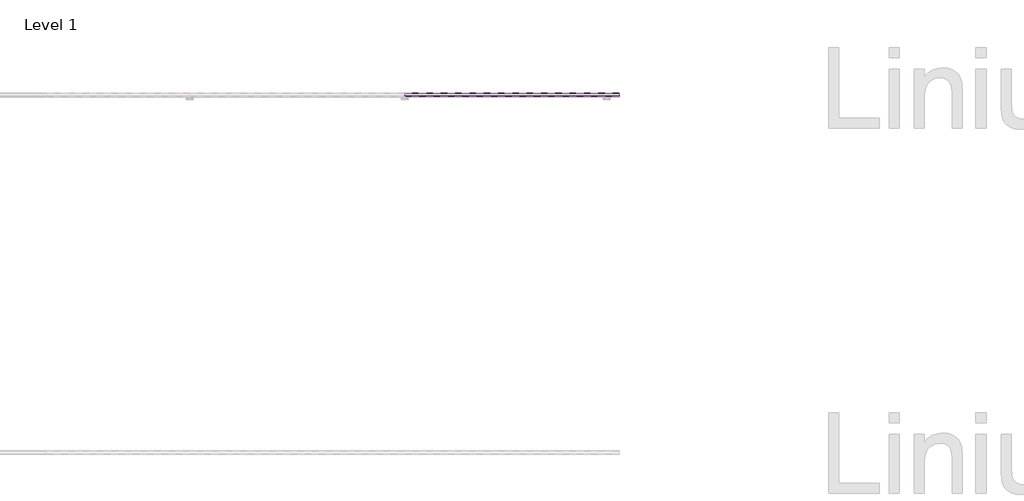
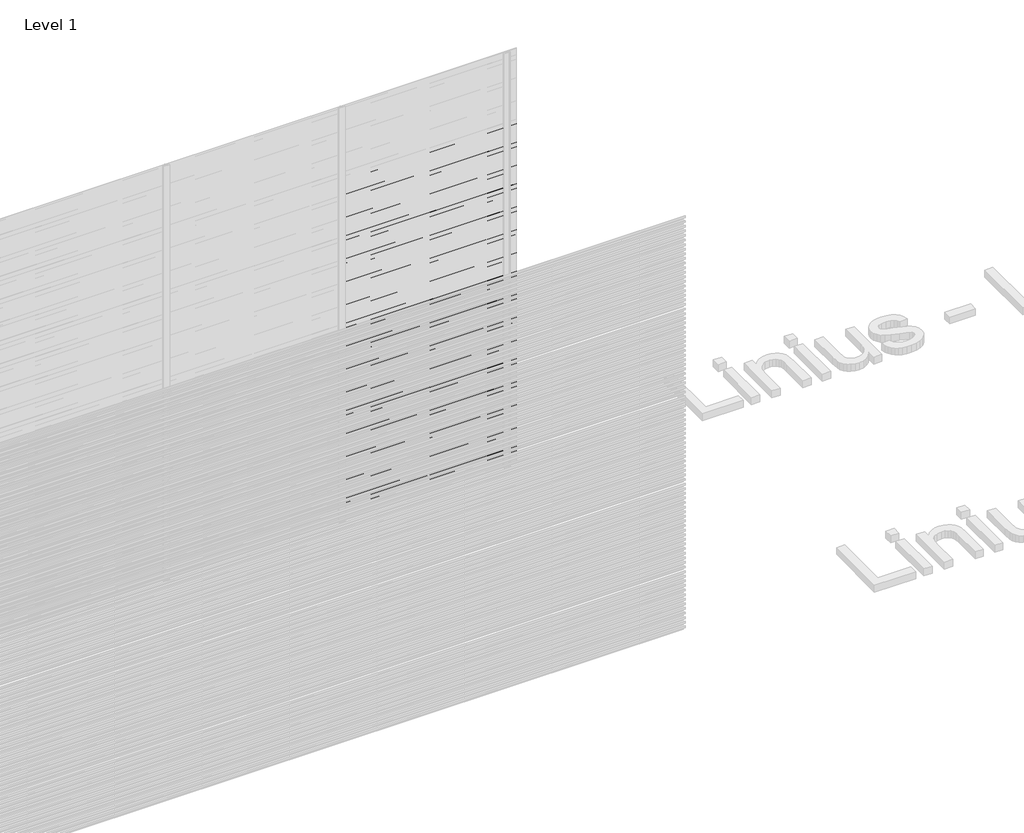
# One storey, part 64 of 507: 74 proxies.
"""IFC4 building model written with IfcOpenShell, lengths in millimetres."""

from ifc_helpers import new_model, si_unit, frame, origin, place, context, project, spatial, polyline, outline, extrude, element, save

model = new_model("IFC4")

# Units and contexts
model_context = context("Model", 3, world=origin())
ifc_project = project(units=[si_unit("LENGTHUNIT", "METRE", prefix="MILLI")], contexts=[model_context])

# Site, building, storey
site = spatial("IfcSite", under=ifc_project)
building = spatial("IfcBuilding", under=site)
storey = spatial("IfcBuildingStorey", under=building, Name="Level 1", Elevation=0.0)

# Proxies
placement = place(None, origin())
element("IfcBuildingElementProxy", 1, Name="Wall Sweeps", at=placement, inside=storey, context=model_context, shape_type="SweptSolid", body=[
    extrude(outline(polyline([(44003.4540136, 2440.2), (44003.4540136, 2426.7), (44002.2040136, 2427.4216933), (44002.2040136, 2439.4782281), (43983.0540136, 2450.5345698), (43983.0540136, 2464.2), (43984.3040136, 2464.2), (43984.3040136, 2451.2562577), (44003.4540136, 2440.2)])), frame((49766.6208095, 0.0, 0.0), z_axis=(1.0, 0.0, 0.0), x_axis=(0.0, 1.0, 0.0)), (0.0, 0.0, 1.0), 1200.0000002),
])
element("IfcBuildingElementProxy", 2, Name="Wall Sweeps", at=placement, inside=storey, context=model_context, shape_type="SweptSolid", body=[
    extrude(outline(polyline([(44003.4540136, 2406.9), (44003.4540136, 2393.4), (44002.2040136, 2394.1216933), (44002.2040136, 2406.1782281), (43983.0540136, 2417.2345698), (43983.0540136, 2430.9), (43984.3040136, 2430.9), (43984.3040136, 2417.9562577), (44003.4540136, 2406.9)])), frame((49766.6208095, 0.0, 0.0), z_axis=(1.0, 0.0, 0.0), x_axis=(0.0, 1.0, 0.0)), (0.0, 0.0, 1.0), 1200.0000002),
])
element("IfcBuildingElementProxy", 3, Name="Wall Sweeps", at=placement, inside=storey, context=model_context, shape_type="SweptSolid", body=[
    extrude(outline(polyline([(44003.4540136, 2373.6), (44003.4540136, 2360.1), (44002.2040136, 2360.8216933), (44002.2040136, 2372.8782281), (43983.0540136, 2383.9345698), (43983.0540136, 2397.6), (43984.3040136, 2397.6), (43984.3040136, 2384.6562577), (44003.4540136, 2373.6)])), frame((49766.6208095, 0.0, 0.0), z_axis=(1.0, 0.0, 0.0), x_axis=(0.0, 1.0, 0.0)), (0.0, 0.0, 1.0), 1200.0000002),
])
element("IfcBuildingElementProxy", 4, Name="Wall Sweeps", at=placement, inside=storey, context=model_context, shape_type="SweptSolid", body=[
    extrude(outline(polyline([(44003.4540136, 2340.3), (44003.4540136, 2326.8), (44002.2040136, 2327.5216933), (44002.2040136, 2339.5782281), (43983.0540136, 2350.6345698), (43983.0540136, 2364.3), (43984.3040136, 2364.3), (43984.3040136, 2351.3562577), (44003.4540136, 2340.3)])), frame((49766.6208095, 0.0, 0.0), z_axis=(1.0, 0.0, 0.0), x_axis=(0.0, 1.0, 0.0)), (0.0, 0.0, 1.0), 1200.0000002),
])
element("IfcBuildingElementProxy", 5, Name="Wall Sweeps", at=placement, inside=storey, context=model_context, shape_type="SweptSolid", body=[
    extrude(outline(polyline([(44003.4540136, 2307.0), (44003.4540136, 2293.5), (44002.2040136, 2294.2216933), (44002.2040136, 2306.2782281), (43983.0540136, 2317.3345698), (43983.0540136, 2331.0), (43984.3040136, 2331.0), (43984.3040136, 2318.0562577), (44003.4540136, 2307.0)])), frame((49766.6208095, 0.0, 0.0), z_axis=(1.0, 0.0, 0.0), x_axis=(0.0, 1.0, 0.0)), (0.0, 0.0, 1.0), 1200.0000002),
])
element("IfcBuildingElementProxy", 6, Name="Wall Sweeps", at=placement, inside=storey, context=model_context, shape_type="SweptSolid", body=[
    extrude(outline(polyline([(44003.4540136, 2273.7), (44003.4540136, 2260.2), (44002.2040136, 2260.9216933), (44002.2040136, 2272.9782281), (43983.0540136, 2284.0345698), (43983.0540136, 2297.7), (43984.3040136, 2297.7), (43984.3040136, 2284.7562577), (44003.4540136, 2273.7)])), frame((49766.6208095, 0.0, 0.0), z_axis=(1.0, 0.0, 0.0), x_axis=(0.0, 1.0, 0.0)), (0.0, 0.0, 1.0), 1200.0000002),
])
element("IfcBuildingElementProxy", 7, Name="Wall Sweeps", at=placement, inside=storey, context=model_context, shape_type="SweptSolid", body=[
    extrude(outline(polyline([(44003.4540136, 2240.4), (44003.4540136, 2226.9), (44002.2040136, 2227.6216933), (44002.2040136, 2239.6782281), (43983.0540136, 2250.7345698), (43983.0540136, 2264.4), (43984.3040136, 2264.4), (43984.3040136, 2251.4562577), (44003.4540136, 2240.4)])), frame((49766.6208095, 0.0, 0.0), z_axis=(1.0, 0.0, 0.0), x_axis=(0.0, 1.0, 0.0)), (0.0, 0.0, 1.0), 1200.0000002),
])
element("IfcBuildingElementProxy", 8, Name="Wall Sweeps", at=placement, inside=storey, context=model_context, shape_type="SweptSolid", body=[
    extrude(outline(polyline([(44003.4540136, 2207.1), (44003.4540136, 2193.6), (44002.2040136, 2194.3216933), (44002.2040136, 2206.3782281), (43983.0540136, 2217.4345698), (43983.0540136, 2231.1), (43984.3040136, 2231.1), (43984.3040136, 2218.1562577), (44003.4540136, 2207.1)])), frame((49766.6208095, 0.0, 0.0), z_axis=(1.0, 0.0, 0.0), x_axis=(0.0, 1.0, 0.0)), (0.0, 0.0, 1.0), 1200.0000002),
])
element("IfcBuildingElementProxy", 9, Name="Wall Sweeps", at=placement, inside=storey, context=model_context, shape_type="SweptSolid", body=[
    extrude(outline(polyline([(44003.4540136, 2173.8), (44003.4540136, 2160.3), (44002.2040136, 2161.0216933), (44002.2040136, 2173.0782281), (43983.0540136, 2184.1345698), (43983.0540136, 2197.8), (43984.3040136, 2197.8), (43984.3040136, 2184.8562577), (44003.4540136, 2173.8)])), frame((49766.6208095, 0.0, 0.0), z_axis=(1.0, 0.0, 0.0), x_axis=(0.0, 1.0, 0.0)), (0.0, 0.0, 1.0), 1200.0000002),
])
element("IfcBuildingElementProxy", 10, Name="Wall Sweeps", at=placement, inside=storey, context=model_context, shape_type="SweptSolid", body=[
    extrude(outline(polyline([(44003.4540136, 2140.5), (44003.4540136, 2127.0), (44002.2040136, 2127.7216933), (44002.2040136, 2139.7782281), (43983.0540136, 2150.8345698), (43983.0540136, 2164.5), (43984.3040136, 2164.5), (43984.3040136, 2151.5562577), (44003.4540136, 2140.5)])), frame((49766.6208095, 0.0, 0.0), z_axis=(1.0, 0.0, 0.0), x_axis=(0.0, 1.0, 0.0)), (0.0, 0.0, 1.0), 1200.0000002),
])
element("IfcBuildingElementProxy", 11, Name="Wall Sweeps", at=placement, inside=storey, context=model_context, shape_type="SweptSolid", body=[
    extrude(outline(polyline([(44003.4540136, 2107.2), (44003.4540136, 2093.7), (44002.2040136, 2094.4216933), (44002.2040136, 2106.4782281), (43983.0540136, 2117.5345698), (43983.0540136, 2131.2), (43984.3040136, 2131.2), (43984.3040136, 2118.2562577), (44003.4540136, 2107.2)])), frame((49766.6208095, 0.0, 0.0), z_axis=(1.0, 0.0, 0.0), x_axis=(0.0, 1.0, 0.0)), (0.0, 0.0, 1.0), 1200.0000002),
])
element("IfcBuildingElementProxy", 12, Name="Wall Sweeps", at=placement, inside=storey, context=model_context, shape_type="SweptSolid", body=[
    extrude(outline(polyline([(44003.4540136, 2073.9), (44003.4540136, 2060.4), (44002.2040136, 2061.1216933), (44002.2040136, 2073.1782281), (43983.0540136, 2084.2345698), (43983.0540136, 2097.9), (43984.3040136, 2097.9), (43984.3040136, 2084.9562577), (44003.4540136, 2073.9)])), frame((49766.6208095, 0.0, 0.0), z_axis=(1.0, 0.0, 0.0), x_axis=(0.0, 1.0, 0.0)), (0.0, 0.0, 1.0), 1200.0000002),
])
element("IfcBuildingElementProxy", 13, Name="Wall Sweeps", at=placement, inside=storey, context=model_context, shape_type="SweptSolid", body=[
    extrude(outline(polyline([(44003.4540136, 2040.6), (44003.4540136, 2027.1), (44002.2040136, 2027.8216933), (44002.2040136, 2039.8782281), (43983.0540136, 2050.9345698), (43983.0540136, 2064.6), (43984.3040136, 2064.6), (43984.3040136, 2051.6562577), (44003.4540136, 2040.6)])), frame((49766.6208095, 0.0, 0.0), z_axis=(1.0, 0.0, 0.0), x_axis=(0.0, 1.0, 0.0)), (0.0, 0.0, 1.0), 1200.0000002),
])
element("IfcBuildingElementProxy", 14, Name="Wall Sweeps", at=placement, inside=storey, context=model_context, shape_type="SweptSolid", body=[
    extrude(outline(polyline([(44003.4540136, 2007.3), (44003.4540136, 1993.8), (44002.2040136, 1994.5216933), (44002.2040136, 2006.5782281), (43983.0540136, 2017.6345698), (43983.0540136, 2031.3), (43984.3040136, 2031.3), (43984.3040136, 2018.3562577), (44003.4540136, 2007.3)])), frame((49766.6208095, 0.0, 0.0), z_axis=(1.0, 0.0, 0.0), x_axis=(0.0, 1.0, 0.0)), (0.0, 0.0, 1.0), 1200.0000002),
])
element("IfcBuildingElementProxy", 15, Name="Wall Sweeps", at=placement, inside=storey, context=model_context, shape_type="SweptSolid", body=[
    extrude(outline(polyline([(44003.4540136, 1974.0), (44003.4540136, 1960.5), (44002.2040136, 1961.2216933), (44002.2040136, 1973.2782281), (43983.0540136, 1984.3345698), (43983.0540136, 1998.0), (43984.3040136, 1998.0), (43984.3040136, 1985.0562577), (44003.4540136, 1974.0)])), frame((49766.6208095, 0.0, 0.0), z_axis=(1.0, 0.0, 0.0), x_axis=(0.0, 1.0, 0.0)), (0.0, 0.0, 1.0), 1200.0000002),
])
element("IfcBuildingElementProxy", 16, Name="Wall Sweeps", at=placement, inside=storey, context=model_context, shape_type="SweptSolid", body=[
    extrude(outline(polyline([(44003.4540136, 1940.7), (44003.4540136, 1927.2), (44002.2040136, 1927.9216933), (44002.2040136, 1939.9782281), (43983.0540136, 1951.0345698), (43983.0540136, 1964.7), (43984.3040136, 1964.7), (43984.3040136, 1951.7562577), (44003.4540136, 1940.7)])), frame((49766.6208095, 0.0, 0.0), z_axis=(1.0, 0.0, 0.0), x_axis=(0.0, 1.0, 0.0)), (0.0, 0.0, 1.0), 1200.0000002),
])
element("IfcBuildingElementProxy", 17, Name="Wall Sweeps", at=placement, inside=storey, context=model_context, shape_type="SweptSolid", body=[
    extrude(outline(polyline([(44003.4540136, 1907.4), (44003.4540136, 1893.9), (44002.2040136, 1894.6216933), (44002.2040136, 1906.6782281), (43983.0540136, 1917.7345698), (43983.0540136, 1931.4), (43984.3040136, 1931.4), (43984.3040136, 1918.4562577), (44003.4540136, 1907.4)])), frame((49766.6208095, 0.0, 0.0), z_axis=(1.0, 0.0, 0.0), x_axis=(0.0, 1.0, 0.0)), (0.0, 0.0, 1.0), 1200.0000002),
])
element("IfcBuildingElementProxy", 18, Name="Wall Sweeps", at=placement, inside=storey, context=model_context, shape_type="SweptSolid", body=[
    extrude(outline(polyline([(44003.4540136, 1874.1), (44003.4540136, 1860.6), (44002.2040136, 1861.3216933), (44002.2040136, 1873.3782281), (43983.0540136, 1884.4345698), (43983.0540136, 1898.1), (43984.3040136, 1898.1), (43984.3040136, 1885.1562577), (44003.4540136, 1874.1)])), frame((49766.6208095, 0.0, 0.0), z_axis=(1.0, 0.0, 0.0), x_axis=(0.0, 1.0, 0.0)), (0.0, 0.0, 1.0), 1200.0000002),
])
element("IfcBuildingElementProxy", 19, Name="Wall Sweeps", at=placement, inside=storey, context=model_context, shape_type="SweptSolid", body=[
    extrude(outline(polyline([(44003.4540136, 1840.8), (44003.4540136, 1827.3), (44002.2040136, 1828.0216933), (44002.2040136, 1840.0782281), (43983.0540136, 1851.1345698), (43983.0540136, 1864.8), (43984.3040136, 1864.8), (43984.3040136, 1851.8562577), (44003.4540136, 1840.8)])), frame((49766.6208095, 0.0, 0.0), z_axis=(1.0, 0.0, 0.0), x_axis=(0.0, 1.0, 0.0)), (0.0, 0.0, 1.0), 1200.0000002),
])
element("IfcBuildingElementProxy", 20, Name="Wall Sweeps", at=placement, inside=storey, context=model_context, shape_type="SweptSolid", body=[
    extrude(outline(polyline([(44003.4540136, 1807.5), (44003.4540136, 1794.0), (44002.2040136, 1794.7216933), (44002.2040136, 1806.7782281), (43983.0540136, 1817.8345698), (43983.0540136, 1831.5), (43984.3040136, 1831.5), (43984.3040136, 1818.5562577), (44003.4540136, 1807.5)])), frame((49766.6208095, 0.0, 0.0), z_axis=(1.0, 0.0, 0.0), x_axis=(0.0, 1.0, 0.0)), (0.0, 0.0, 1.0), 1200.0000002),
])
element("IfcBuildingElementProxy", 21, Name="Wall Sweeps", at=placement, inside=storey, context=model_context, shape_type="SweptSolid", body=[
    extrude(outline(polyline([(44003.4540136, 1774.2), (44003.4540136, 1760.7), (44002.2040136, 1761.4216933), (44002.2040136, 1773.4782281), (43983.0540136, 1784.5345698), (43983.0540136, 1798.2), (43984.3040136, 1798.2), (43984.3040136, 1785.2562577), (44003.4540136, 1774.2)])), frame((49766.6208095, 0.0, 0.0), z_axis=(1.0, 0.0, 0.0), x_axis=(0.0, 1.0, 0.0)), (0.0, 0.0, 1.0), 1200.0000002),
])
element("IfcBuildingElementProxy", 22, Name="Wall Sweeps", at=placement, inside=storey, context=model_context, shape_type="SweptSolid", body=[
    extrude(outline(polyline([(44003.4540136, 1740.9), (44003.4540136, 1727.4), (44002.2040136, 1728.1216933), (44002.2040136, 1740.1782281), (43983.0540136, 1751.2345698), (43983.0540136, 1764.9), (43984.3040136, 1764.9), (43984.3040136, 1751.9562577), (44003.4540136, 1740.9)])), frame((49766.6208095, 0.0, 0.0), z_axis=(1.0, 0.0, 0.0), x_axis=(0.0, 1.0, 0.0)), (0.0, 0.0, 1.0), 1200.0000002),
])
element("IfcBuildingElementProxy", 23, Name="Wall Sweeps", at=placement, inside=storey, context=model_context, shape_type="SweptSolid", body=[
    extrude(outline(polyline([(44003.4540136, 1707.6), (44003.4540136, 1694.1), (44002.2040136, 1694.8216933), (44002.2040136, 1706.8782281), (43983.0540136, 1717.9345698), (43983.0540136, 1731.6), (43984.3040136, 1731.6), (43984.3040136, 1718.6562577), (44003.4540136, 1707.6)])), frame((49766.6208095, 0.0, 0.0), z_axis=(1.0, 0.0, 0.0), x_axis=(0.0, 1.0, 0.0)), (0.0, 0.0, 1.0), 1200.0000002),
])
element("IfcBuildingElementProxy", 24, Name="Wall Sweeps", at=placement, inside=storey, context=model_context, shape_type="SweptSolid", body=[
    extrude(outline(polyline([(44003.4540136, 1674.3), (44003.4540136, 1660.8), (44002.2040136, 1661.5216933), (44002.2040136, 1673.5782281), (43983.0540136, 1684.6345698), (43983.0540136, 1698.3), (43984.3040136, 1698.3), (43984.3040136, 1685.3562577), (44003.4540136, 1674.3)])), frame((49766.6208095, 0.0, 0.0), z_axis=(1.0, 0.0, 0.0), x_axis=(0.0, 1.0, 0.0)), (0.0, 0.0, 1.0), 1200.0000002),
])
element("IfcBuildingElementProxy", 25, Name="Wall Sweeps", at=placement, inside=storey, context=model_context, shape_type="SweptSolid", body=[
    extrude(outline(polyline([(44003.4540136, 1641.0), (44003.4540136, 1627.5), (44002.2040136, 1628.2216933), (44002.2040136, 1640.2782281), (43983.0540136, 1651.3345698), (43983.0540136, 1665.0), (43984.3040136, 1665.0), (43984.3040136, 1652.0562577), (44003.4540136, 1641.0)])), frame((49766.6208095, 0.0, 0.0), z_axis=(1.0, 0.0, 0.0), x_axis=(0.0, 1.0, 0.0)), (0.0, 0.0, 1.0), 1200.0000002),
])
element("IfcBuildingElementProxy", 26, Name="Wall Sweeps", at=placement, inside=storey, context=model_context, shape_type="SweptSolid", body=[
    extrude(outline(polyline([(44003.4540136, 1607.7), (44003.4540136, 1594.2), (44002.2040136, 1594.9216933), (44002.2040136, 1606.9782281), (43983.0540136, 1618.0345698), (43983.0540136, 1631.7), (43984.3040136, 1631.7), (43984.3040136, 1618.7562577), (44003.4540136, 1607.7)])), frame((49766.6208095, 0.0, 0.0), z_axis=(1.0, 0.0, 0.0), x_axis=(0.0, 1.0, 0.0)), (0.0, 0.0, 1.0), 1200.0000002),
])
element("IfcBuildingElementProxy", 27, Name="Wall Sweeps", at=placement, inside=storey, context=model_context, shape_type="SweptSolid", body=[
    extrude(outline(polyline([(44003.4540136, 1574.4), (44003.4540136, 1560.9), (44002.2040136, 1561.6216933), (44002.2040136, 1573.6782281), (43983.0540136, 1584.7345698), (43983.0540136, 1598.4), (43984.3040136, 1598.4), (43984.3040136, 1585.4562577), (44003.4540136, 1574.4)])), frame((49766.6208095, 0.0, 0.0), z_axis=(1.0, 0.0, 0.0), x_axis=(0.0, 1.0, 0.0)), (0.0, 0.0, 1.0), 1200.0000002),
])
element("IfcBuildingElementProxy", 28, Name="Wall Sweeps", at=placement, inside=storey, context=model_context, shape_type="SweptSolid", body=[
    extrude(outline(polyline([(44003.4540136, 1541.1), (44003.4540136, 1527.6), (44002.2040136, 1528.3216933), (44002.2040136, 1540.3782281), (43983.0540136, 1551.4345698), (43983.0540136, 1565.1), (43984.3040136, 1565.1), (43984.3040136, 1552.1562577), (44003.4540136, 1541.1)])), frame((49766.6208095, 0.0, 0.0), z_axis=(1.0, 0.0, 0.0), x_axis=(0.0, 1.0, 0.0)), (0.0, 0.0, 1.0), 1200.0000002),
])
element("IfcBuildingElementProxy", 29, Name="Wall Sweeps", at=placement, inside=storey, context=model_context, shape_type="SweptSolid", body=[
    extrude(outline(polyline([(44003.4540136, 1507.8), (44003.4540136, 1494.3), (44002.2040136, 1495.0216933), (44002.2040136, 1507.0782281), (43983.0540136, 1518.1345698), (43983.0540136, 1531.8), (43984.3040136, 1531.8), (43984.3040136, 1518.8562577), (44003.4540136, 1507.8)])), frame((49766.6208095, 0.0, 0.0), z_axis=(1.0, 0.0, 0.0), x_axis=(0.0, 1.0, 0.0)), (0.0, 0.0, 1.0), 1200.0000002),
])
element("IfcBuildingElementProxy", 30, Name="Wall Sweeps", at=placement, inside=storey, context=model_context, shape_type="SweptSolid", body=[
    extrude(outline(polyline([(44003.4540136, 1474.5), (44003.4540136, 1461.0), (44002.2040136, 1461.7216933), (44002.2040136, 1473.7782281), (43983.0540136, 1484.8345698), (43983.0540136, 1498.5), (43984.3040136, 1498.5), (43984.3040136, 1485.5562577), (44003.4540136, 1474.5)])), frame((49766.6208095, 0.0, 0.0), z_axis=(1.0, 0.0, 0.0), x_axis=(0.0, 1.0, 0.0)), (0.0, 0.0, 1.0), 1200.0000002),
])
element("IfcBuildingElementProxy", 31, Name="Wall Sweeps", at=placement, inside=storey, context=model_context, shape_type="SweptSolid", body=[
    extrude(outline(polyline([(44003.4540136, 1441.2), (44003.4540136, 1427.7), (44002.2040136, 1428.4216933), (44002.2040136, 1440.4782281), (43983.0540136, 1451.5345698), (43983.0540136, 1465.2), (43984.3040136, 1465.2), (43984.3040136, 1452.2562577), (44003.4540136, 1441.2)])), frame((49766.6208095, 0.0, 0.0), z_axis=(1.0, 0.0, 0.0), x_axis=(0.0, 1.0, 0.0)), (0.0, 0.0, 1.0), 1200.0000002),
])
element("IfcBuildingElementProxy", 32, Name="Wall Sweeps", at=placement, inside=storey, context=model_context, shape_type="SweptSolid", body=[
    extrude(outline(polyline([(44003.4540136, 1407.9), (44003.4540136, 1394.4), (44002.2040136, 1395.1216933), (44002.2040136, 1407.1782281), (43983.0540136, 1418.2345698), (43983.0540136, 1431.9), (43984.3040136, 1431.9), (43984.3040136, 1418.9562577), (44003.4540136, 1407.9)])), frame((49766.6208095, 0.0, 0.0), z_axis=(1.0, 0.0, 0.0), x_axis=(0.0, 1.0, 0.0)), (0.0, 0.0, 1.0), 1200.0000002),
])
element("IfcBuildingElementProxy", 33, Name="Wall Sweeps", at=placement, inside=storey, context=model_context, shape_type="SweptSolid", body=[
    extrude(outline(polyline([(44003.4540136, 1374.6), (44003.4540136, 1361.1), (44002.2040136, 1361.8216933), (44002.2040136, 1373.8782281), (43983.0540136, 1384.9345698), (43983.0540136, 1398.6), (43984.3040136, 1398.6), (43984.3040136, 1385.6562577), (44003.4540136, 1374.6)])), frame((49766.6208095, 0.0, 0.0), z_axis=(1.0, 0.0, 0.0), x_axis=(0.0, 1.0, 0.0)), (0.0, 0.0, 1.0), 1200.0000002),
])
element("IfcBuildingElementProxy", 34, Name="Wall Sweeps", at=placement, inside=storey, context=model_context, shape_type="SweptSolid", body=[
    extrude(outline(polyline([(44003.4540136, 1341.3), (44003.4540136, 1327.8), (44002.2040136, 1328.5216933), (44002.2040136, 1340.5782281), (43983.0540136, 1351.6345698), (43983.0540136, 1365.3), (43984.3040136, 1365.3), (43984.3040136, 1352.3562577), (44003.4540136, 1341.3)])), frame((49766.6208095, 0.0, 0.0), z_axis=(1.0, 0.0, 0.0), x_axis=(0.0, 1.0, 0.0)), (0.0, 0.0, 1.0), 1200.0000002),
])
element("IfcBuildingElementProxy", 35, Name="Wall Sweeps", at=placement, inside=storey, context=model_context, shape_type="SweptSolid", body=[
    extrude(outline(polyline([(44003.4540136, 1308.0), (44003.4540136, 1294.5), (44002.2040136, 1295.2216933), (44002.2040136, 1307.2782281), (43983.0540136, 1318.3345698), (43983.0540136, 1332.0), (43984.3040136, 1332.0), (43984.3040136, 1319.0562577), (44003.4540136, 1308.0)])), frame((49766.6208095, 0.0, 0.0), z_axis=(1.0, 0.0, 0.0), x_axis=(0.0, 1.0, 0.0)), (0.0, 0.0, 1.0), 1200.0000002),
])
element("IfcBuildingElementProxy", 36, Name="Wall Sweeps", at=placement, inside=storey, context=model_context, shape_type="SweptSolid", body=[
    extrude(outline(polyline([(44003.4540136, 1274.7), (44003.4540136, 1261.2), (44002.2040136, 1261.9216933), (44002.2040136, 1273.9782281), (43983.0540136, 1285.0345698), (43983.0540136, 1298.7), (43984.3040136, 1298.7), (43984.3040136, 1285.7562577), (44003.4540136, 1274.7)])), frame((49766.6208095, 0.0, 0.0), z_axis=(1.0, 0.0, 0.0), x_axis=(0.0, 1.0, 0.0)), (0.0, 0.0, 1.0), 1200.0000002),
])
element("IfcBuildingElementProxy", 37, Name="Wall Sweeps", at=placement, inside=storey, context=model_context, shape_type="SweptSolid", body=[
    extrude(outline(polyline([(44003.4540136, 1241.4), (44003.4540136, 1227.9), (44002.2040136, 1228.6216933), (44002.2040136, 1240.6782281), (43983.0540136, 1251.7345698), (43983.0540136, 1265.4), (43984.3040136, 1265.4), (43984.3040136, 1252.4562577), (44003.4540136, 1241.4)])), frame((49766.6208095, 0.0, 0.0), z_axis=(1.0, 0.0, 0.0), x_axis=(0.0, 1.0, 0.0)), (0.0, 0.0, 1.0), 1200.0000002),
])
element("IfcBuildingElementProxy", 38, Name="Wall Sweeps", at=placement, inside=storey, context=model_context, shape_type="SweptSolid", body=[
    extrude(outline(polyline([(44003.4540136, 1208.1), (44003.4540136, 1194.6), (44002.2040136, 1195.3216933), (44002.2040136, 1207.3782281), (43983.0540136, 1218.4345698), (43983.0540136, 1232.1), (43984.3040136, 1232.1), (43984.3040136, 1219.1562577), (44003.4540136, 1208.1)])), frame((49766.6208095, 0.0, 0.0), z_axis=(1.0, 0.0, 0.0), x_axis=(0.0, 1.0, 0.0)), (0.0, 0.0, 1.0), 1200.0000002),
])
element("IfcBuildingElementProxy", 39, Name="Wall Sweeps", at=placement, inside=storey, context=model_context, shape_type="SweptSolid", body=[
    extrude(outline(polyline([(44003.4540136, 1174.8), (44003.4540136, 1161.3), (44002.2040136, 1162.0216933), (44002.2040136, 1174.0782281), (43983.0540136, 1185.1345698), (43983.0540136, 1198.8), (43984.3040136, 1198.8), (43984.3040136, 1185.8562577), (44003.4540136, 1174.8)])), frame((49766.6208095, 0.0, 0.0), z_axis=(1.0, 0.0, 0.0), x_axis=(0.0, 1.0, 0.0)), (0.0, 0.0, 1.0), 1200.0000002),
])
element("IfcBuildingElementProxy", 40, Name="Wall Sweeps", at=placement, inside=storey, context=model_context, shape_type="SweptSolid", body=[
    extrude(outline(polyline([(44003.4540136, 1141.5), (44003.4540136, 1128.0), (44002.2040136, 1128.7216933), (44002.2040136, 1140.7782281), (43983.0540136, 1151.8345698), (43983.0540136, 1165.5), (43984.3040136, 1165.5), (43984.3040136, 1152.5562577), (44003.4540136, 1141.5)])), frame((49766.6208095, 0.0, 0.0), z_axis=(1.0, 0.0, 0.0), x_axis=(0.0, 1.0, 0.0)), (0.0, 0.0, 1.0), 1200.0000002),
])
element("IfcBuildingElementProxy", 41, Name="Wall Sweeps", at=placement, inside=storey, context=model_context, shape_type="SweptSolid", body=[
    extrude(outline(polyline([(44003.4540136, 1108.2), (44003.4540136, 1094.7), (44002.2040136, 1095.4216933), (44002.2040136, 1107.4782281), (43983.0540136, 1118.5345698), (43983.0540136, 1132.2), (43984.3040136, 1132.2), (43984.3040136, 1119.2562577), (44003.4540136, 1108.2)])), frame((49766.6208095, 0.0, 0.0), z_axis=(1.0, 0.0, 0.0), x_axis=(0.0, 1.0, 0.0)), (0.0, 0.0, 1.0), 1200.0000002),
])
element("IfcBuildingElementProxy", 42, Name="Wall Sweeps", at=placement, inside=storey, context=model_context, shape_type="SweptSolid", body=[
    extrude(outline(polyline([(44003.4540136, 1074.9), (44003.4540136, 1061.4), (44002.2040136, 1062.1216933), (44002.2040136, 1074.1782281), (43983.0540136, 1085.2345698), (43983.0540136, 1098.9), (43984.3040136, 1098.9), (43984.3040136, 1085.9562577), (44003.4540136, 1074.9)])), frame((49766.6208095, 0.0, 0.0), z_axis=(1.0, 0.0, 0.0), x_axis=(0.0, 1.0, 0.0)), (0.0, 0.0, 1.0), 1200.0000002),
])
element("IfcBuildingElementProxy", 43, Name="Wall Sweeps", at=placement, inside=storey, context=model_context, shape_type="SweptSolid", body=[
    extrude(outline(polyline([(44003.4540136, 1041.6), (44003.4540136, 1028.1), (44002.2040136, 1028.8216933), (44002.2040136, 1040.8782281), (43983.0540136, 1051.9345698), (43983.0540136, 1065.6), (43984.3040136, 1065.6), (43984.3040136, 1052.6562577), (44003.4540136, 1041.6)])), frame((49766.6208095, 0.0, 0.0), z_axis=(1.0, 0.0, 0.0), x_axis=(0.0, 1.0, 0.0)), (0.0, 0.0, 1.0), 1200.0000002),
])
element("IfcBuildingElementProxy", 44, Name="Wall Sweeps", at=placement, inside=storey, context=model_context, shape_type="SweptSolid", body=[
    extrude(outline(polyline([(44003.4540136, 1008.3), (44003.4540136, 994.8), (44002.2040136, 995.5216933), (44002.2040136, 1007.5782281), (43983.0540136, 1018.6345698), (43983.0540136, 1032.3), (43984.3040136, 1032.3), (43984.3040136, 1019.3562577), (44003.4540136, 1008.3)])), frame((49766.6208095, 0.0, 0.0), z_axis=(1.0, 0.0, 0.0), x_axis=(0.0, 1.0, 0.0)), (0.0, 0.0, 1.0), 1200.0000002),
])
element("IfcBuildingElementProxy", 45, Name="Wall Sweeps", at=placement, inside=storey, context=model_context, shape_type="SweptSolid", body=[
    extrude(outline(polyline([(44003.4540136, 975.0), (44003.4540136, 961.5), (44002.2040136, 962.2216933), (44002.2040136, 974.2782281), (43983.0540136, 985.3345698), (43983.0540136, 999.0), (43984.3040136, 999.0), (43984.3040136, 986.0562577), (44003.4540136, 975.0)])), frame((49766.6208095, 0.0, 0.0), z_axis=(1.0, 0.0, 0.0), x_axis=(0.0, 1.0, 0.0)), (0.0, 0.0, 1.0), 1200.0000002),
])
element("IfcBuildingElementProxy", 46, Name="Wall Sweeps", at=placement, inside=storey, context=model_context, shape_type="SweptSolid", body=[
    extrude(outline(polyline([(44003.4540136, 941.7), (44003.4540136, 928.2), (44002.2040136, 928.9216933), (44002.2040136, 940.9782281), (43983.0540136, 952.0345698), (43983.0540136, 965.7), (43984.3040136, 965.7), (43984.3040136, 952.7562577), (44003.4540136, 941.7)])), frame((49766.6208095, 0.0, 0.0), z_axis=(1.0, 0.0, 0.0), x_axis=(0.0, 1.0, 0.0)), (0.0, 0.0, 1.0), 1200.0000002),
])
element("IfcBuildingElementProxy", 47, Name="Wall Sweeps", at=placement, inside=storey, context=model_context, shape_type="SweptSolid", body=[
    extrude(outline(polyline([(44003.4540136, 908.4), (44003.4540136, 894.9), (44002.2040136, 895.6216933), (44002.2040136, 907.6782281), (43983.0540136, 918.7345698), (43983.0540136, 932.4), (43984.3040136, 932.4), (43984.3040136, 919.4562577), (44003.4540136, 908.4)])), frame((49766.6208095, 0.0, 0.0), z_axis=(1.0, 0.0, 0.0), x_axis=(0.0, 1.0, 0.0)), (0.0, 0.0, 1.0), 1200.0000002),
])
element("IfcBuildingElementProxy", 48, Name="Wall Sweeps", at=placement, inside=storey, context=model_context, shape_type="SweptSolid", body=[
    extrude(outline(polyline([(44003.4540136, 875.1), (44003.4540136, 861.6), (44002.2040136, 862.3216933), (44002.2040136, 874.3782281), (43983.0540136, 885.4345698), (43983.0540136, 899.1), (43984.3040136, 899.1), (43984.3040136, 886.1562577), (44003.4540136, 875.1)])), frame((49766.6208095, 0.0, 0.0), z_axis=(1.0, 0.0, 0.0), x_axis=(0.0, 1.0, 0.0)), (0.0, 0.0, 1.0), 1200.0000002),
])
element("IfcBuildingElementProxy", 49, Name="Wall Sweeps", at=placement, inside=storey, context=model_context, shape_type="SweptSolid", body=[
    extrude(outline(polyline([(44003.4540136, 841.8), (44003.4540136, 828.3), (44002.2040136, 829.0216933), (44002.2040136, 841.0782281), (43983.0540136, 852.1345698), (43983.0540136, 865.8), (43984.3040136, 865.8), (43984.3040136, 852.8562577), (44003.4540136, 841.8)])), frame((49766.6208095, 0.0, 0.0), z_axis=(1.0, 0.0, 0.0), x_axis=(0.0, 1.0, 0.0)), (0.0, 0.0, 1.0), 1200.0000002),
])
element("IfcBuildingElementProxy", 50, Name="Wall Sweeps", at=placement, inside=storey, context=model_context, shape_type="SweptSolid", body=[
    extrude(outline(polyline([(44003.4540136, 808.5), (44003.4540136, 795.0), (44002.2040136, 795.7216933), (44002.2040136, 807.7782281), (43983.0540136, 818.8345698), (43983.0540136, 832.5), (43984.3040136, 832.5), (43984.3040136, 819.5562577), (44003.4540136, 808.5)])), frame((49766.6208095, 0.0, 0.0), z_axis=(1.0, 0.0, 0.0), x_axis=(0.0, 1.0, 0.0)), (0.0, 0.0, 1.0), 1200.0000002),
])
element("IfcBuildingElementProxy", 51, Name="Wall Sweeps", at=placement, inside=storey, context=model_context, shape_type="SweptSolid", body=[
    extrude(outline(polyline([(44003.4540136, 775.2), (44003.4540136, 761.7), (44002.2040136, 762.4216933), (44002.2040136, 774.4782281), (43983.0540136, 785.5345698), (43983.0540136, 799.2), (43984.3040136, 799.2), (43984.3040136, 786.2562577), (44003.4540136, 775.2)])), frame((49766.6208095, 0.0, 0.0), z_axis=(1.0, 0.0, 0.0), x_axis=(0.0, 1.0, 0.0)), (0.0, 0.0, 1.0), 1200.0000002),
])
element("IfcBuildingElementProxy", 52, Name="Wall Sweeps", at=placement, inside=storey, context=model_context, shape_type="SweptSolid", body=[
    extrude(outline(polyline([(44003.4540136, 741.9), (44003.4540136, 728.4), (44002.2040136, 729.1216933), (44002.2040136, 741.1782281), (43983.0540136, 752.2345698), (43983.0540136, 765.9), (43984.3040136, 765.9), (43984.3040136, 752.9562577), (44003.4540136, 741.9)])), frame((49766.6208095, 0.0, 0.0), z_axis=(1.0, 0.0, 0.0), x_axis=(0.0, 1.0, 0.0)), (0.0, 0.0, 1.0), 1200.0000002),
])
element("IfcBuildingElementProxy", 53, Name="Wall Sweeps", at=placement, inside=storey, context=model_context, shape_type="SweptSolid", body=[
    extrude(outline(polyline([(44003.4540136, 708.6), (44003.4540136, 695.1), (44002.2040136, 695.8216933), (44002.2040136, 707.8782281), (43983.0540136, 718.9345698), (43983.0540136, 732.6), (43984.3040136, 732.6), (43984.3040136, 719.6562577), (44003.4540136, 708.6)])), frame((49766.6208095, 0.0, 0.0), z_axis=(1.0, 0.0, 0.0), x_axis=(0.0, 1.0, 0.0)), (0.0, 0.0, 1.0), 1200.0000002),
])
element("IfcBuildingElementProxy", 54, Name="Wall Sweeps", at=placement, inside=storey, context=model_context, shape_type="SweptSolid", body=[
    extrude(outline(polyline([(44003.4540136, 675.3), (44003.4540136, 661.8), (44002.2040136, 662.5216933), (44002.2040136, 674.5782281), (43983.0540136, 685.6345698), (43983.0540136, 699.3), (43984.3040136, 699.3), (43984.3040136, 686.3562577), (44003.4540136, 675.3)])), frame((49766.6208095, 0.0, 0.0), z_axis=(1.0, 0.0, 0.0), x_axis=(0.0, 1.0, 0.0)), (0.0, 0.0, 1.0), 1200.0000002),
])
element("IfcBuildingElementProxy", 55, Name="Wall Sweeps", at=placement, inside=storey, context=model_context, shape_type="SweptSolid", body=[
    extrude(outline(polyline([(44003.4540136, 642.0), (44003.4540136, 628.5), (44002.2040136, 629.2216933), (44002.2040136, 641.2782281), (43983.0540136, 652.3345698), (43983.0540136, 666.0), (43984.3040136, 666.0), (43984.3040136, 653.0562577), (44003.4540136, 642.0)])), frame((49766.6208095, 0.0, 0.0), z_axis=(1.0, 0.0, 0.0), x_axis=(0.0, 1.0, 0.0)), (0.0, 0.0, 1.0), 1200.0000002),
])
element("IfcBuildingElementProxy", 56, Name="Wall Sweeps", at=placement, inside=storey, context=model_context, shape_type="SweptSolid", body=[
    extrude(outline(polyline([(44003.4540136, 608.7), (44003.4540136, 595.2), (44002.2040136, 595.9216933), (44002.2040136, 607.9782281), (43983.0540136, 619.0345698), (43983.0540136, 632.7), (43984.3040136, 632.7), (43984.3040136, 619.7562577), (44003.4540136, 608.7)])), frame((49766.6208095, 0.0, 0.0), z_axis=(1.0, 0.0, 0.0), x_axis=(0.0, 1.0, 0.0)), (0.0, 0.0, 1.0), 1200.0000002),
])
element("IfcBuildingElementProxy", 57, Name="Wall Sweeps", at=placement, inside=storey, context=model_context, shape_type="SweptSolid", body=[
    extrude(outline(polyline([(44003.4540136, 575.4), (44003.4540136, 561.9), (44002.2040136, 562.6216933), (44002.2040136, 574.6782281), (43983.0540136, 585.7345698), (43983.0540136, 599.4), (43984.3040136, 599.4), (43984.3040136, 586.4562577), (44003.4540136, 575.4)])), frame((49766.6208095, 0.0, 0.0), z_axis=(1.0, 0.0, 0.0), x_axis=(0.0, 1.0, 0.0)), (0.0, 0.0, 1.0), 1200.0000002),
])
element("IfcBuildingElementProxy", 58, Name="Wall Sweeps", at=placement, inside=storey, context=model_context, shape_type="SweptSolid", body=[
    extrude(outline(polyline([(44003.4540136, 542.1), (44003.4540136, 528.6), (44002.2040136, 529.3216933), (44002.2040136, 541.3782281), (43983.0540136, 552.4345698), (43983.0540136, 566.1), (43984.3040136, 566.1), (43984.3040136, 553.1562577), (44003.4540136, 542.1)])), frame((49766.6208095, 0.0, 0.0), z_axis=(1.0, 0.0, 0.0), x_axis=(0.0, 1.0, 0.0)), (0.0, 0.0, 1.0), 1200.0000002),
])
element("IfcBuildingElementProxy", 59, Name="Wall Sweeps", at=placement, inside=storey, context=model_context, shape_type="SweptSolid", body=[
    extrude(outline(polyline([(44003.4540136, 508.8), (44003.4540136, 495.3), (44002.2040136, 496.0216933), (44002.2040136, 508.0782281), (43983.0540136, 519.1345698), (43983.0540136, 532.8), (43984.3040136, 532.8), (43984.3040136, 519.8562577), (44003.4540136, 508.8)])), frame((49766.6208095, 0.0, 0.0), z_axis=(1.0, 0.0, 0.0), x_axis=(0.0, 1.0, 0.0)), (0.0, 0.0, 1.0), 1200.0000002),
])
element("IfcBuildingElementProxy", 60, Name="Wall Sweeps", at=placement, inside=storey, context=model_context, shape_type="SweptSolid", body=[
    extrude(outline(polyline([(44003.4540136, 475.5), (44003.4540136, 462.0), (44002.2040136, 462.7216933), (44002.2040136, 474.7782281), (43983.0540136, 485.8345698), (43983.0540136, 499.5), (43984.3040136, 499.5), (43984.3040136, 486.5562577), (44003.4540136, 475.5)])), frame((49766.6208095, 0.0, 0.0), z_axis=(1.0, 0.0, 0.0), x_axis=(0.0, 1.0, 0.0)), (0.0, 0.0, 1.0), 1200.0000002),
])
element("IfcBuildingElementProxy", 61, Name="Wall Sweeps", at=placement, inside=storey, context=model_context, shape_type="SweptSolid", body=[
    extrude(outline(polyline([(44003.4540136, 442.2), (44003.4540136, 428.7), (44002.2040136, 429.4216933), (44002.2040136, 441.4782281), (43983.0540136, 452.5345698), (43983.0540136, 466.2), (43984.3040136, 466.2), (43984.3040136, 453.2562577), (44003.4540136, 442.2)])), frame((49766.6208095, 0.0, 0.0), z_axis=(1.0, 0.0, 0.0), x_axis=(0.0, 1.0, 0.0)), (0.0, 0.0, 1.0), 1200.0000002),
])
element("IfcBuildingElementProxy", 62, Name="Wall Sweeps", at=placement, inside=storey, context=model_context, shape_type="SweptSolid", body=[
    extrude(outline(polyline([(44003.4540136, 408.9), (44003.4540136, 395.4), (44002.2040136, 396.1216933), (44002.2040136, 408.1782281), (43983.0540136, 419.2345698), (43983.0540136, 432.9), (43984.3040136, 432.9), (43984.3040136, 419.9562577), (44003.4540136, 408.9)])), frame((49766.6208095, 0.0, 0.0), z_axis=(1.0, 0.0, 0.0), x_axis=(0.0, 1.0, 0.0)), (0.0, 0.0, 1.0), 1200.0000002),
])
element("IfcBuildingElementProxy", 63, Name="Wall Sweeps", at=placement, inside=storey, context=model_context, shape_type="SweptSolid", body=[
    extrude(outline(polyline([(44003.4540136, 375.6), (44003.4540136, 362.1), (44002.2040136, 362.8216933), (44002.2040136, 374.8782281), (43983.0540136, 385.9345698), (43983.0540136, 399.6), (43984.3040136, 399.6), (43984.3040136, 386.6562577), (44003.4540136, 375.6)])), frame((49766.6208095, 0.0, 0.0), z_axis=(1.0, 0.0, 0.0), x_axis=(0.0, 1.0, 0.0)), (0.0, 0.0, 1.0), 1200.0000002),
])
element("IfcBuildingElementProxy", 64, Name="Wall Sweeps", at=placement, inside=storey, context=model_context, shape_type="SweptSolid", body=[
    extrude(outline(polyline([(44003.4540136, 342.3), (44003.4540136, 328.8), (44002.2040136, 329.5216933), (44002.2040136, 341.5782281), (43983.0540136, 352.6345698), (43983.0540136, 366.3), (43984.3040136, 366.3), (43984.3040136, 353.3562577), (44003.4540136, 342.3)])), frame((49766.6208095, 0.0, 0.0), z_axis=(1.0, 0.0, 0.0), x_axis=(0.0, 1.0, 0.0)), (0.0, 0.0, 1.0), 1200.0000002),
])
element("IfcBuildingElementProxy", 65, Name="Wall Sweeps", at=placement, inside=storey, context=model_context, shape_type="SweptSolid", body=[
    extrude(outline(polyline([(44003.4540136, 309.0), (44003.4540136, 295.5), (44002.2040136, 296.2216933), (44002.2040136, 308.2782281), (43983.0540136, 319.3345698), (43983.0540136, 333.0), (43984.3040136, 333.0), (43984.3040136, 320.0562577), (44003.4540136, 309.0)])), frame((49766.6208095, 0.0, 0.0), z_axis=(1.0, 0.0, 0.0), x_axis=(0.0, 1.0, 0.0)), (0.0, 0.0, 1.0), 1200.0000002),
])
element("IfcBuildingElementProxy", 66, Name="Wall Sweeps", at=placement, inside=storey, context=model_context, shape_type="SweptSolid", body=[
    extrude(outline(polyline([(44003.4540136, 275.7), (44003.4540136, 262.2), (44002.2040136, 262.9216933), (44002.2040136, 274.9782281), (43983.0540136, 286.0345698), (43983.0540136, 299.7), (43984.3040136, 299.7), (43984.3040136, 286.7562577), (44003.4540136, 275.7)])), frame((49766.6208095, 0.0, 0.0), z_axis=(1.0, 0.0, 0.0), x_axis=(0.0, 1.0, 0.0)), (0.0, 0.0, 1.0), 1200.0000002),
])
element("IfcBuildingElementProxy", 67, Name="Wall Sweeps", at=placement, inside=storey, context=model_context, shape_type="SweptSolid", body=[
    extrude(outline(polyline([(44003.4540136, 242.4), (44003.4540136, 228.9), (44002.2040136, 229.6216933), (44002.2040136, 241.6782281), (43983.0540136, 252.7345698), (43983.0540136, 266.4), (43984.3040136, 266.4), (43984.3040136, 253.4562577), (44003.4540136, 242.4)])), frame((49766.6208095, 0.0, 0.0), z_axis=(1.0, 0.0, 0.0), x_axis=(0.0, 1.0, 0.0)), (0.0, 0.0, 1.0), 1200.0000002),
])
element("IfcBuildingElementProxy", 68, Name="Wall Sweeps", at=placement, inside=storey, context=model_context, shape_type="SweptSolid", body=[
    extrude(outline(polyline([(44003.4540136, 209.1), (44003.4540136, 195.6), (44002.2040136, 196.3216933), (44002.2040136, 208.3782281), (43983.0540136, 219.4345698), (43983.0540136, 233.1), (43984.3040136, 233.1), (43984.3040136, 220.1562577), (44003.4540136, 209.1)])), frame((49766.6208095, 0.0, 0.0), z_axis=(1.0, 0.0, 0.0), x_axis=(0.0, 1.0, 0.0)), (0.0, 0.0, 1.0), 1200.0000002),
])
element("IfcBuildingElementProxy", 69, Name="Wall Sweeps", at=placement, inside=storey, context=model_context, shape_type="SweptSolid", body=[
    extrude(outline(polyline([(44003.4540136, 175.8), (44003.4540136, 162.3), (44002.2040136, 163.0216933), (44002.2040136, 175.0782281), (43983.0540136, 186.1345698), (43983.0540136, 199.8), (43984.3040136, 199.8), (43984.3040136, 186.8562577), (44003.4540136, 175.8)])), frame((49766.6208095, 0.0, 0.0), z_axis=(1.0, 0.0, 0.0), x_axis=(0.0, 1.0, 0.0)), (0.0, 0.0, 1.0), 1200.0000002),
])
element("IfcBuildingElementProxy", 70, Name="Wall Sweeps", at=placement, inside=storey, context=model_context, shape_type="SweptSolid", body=[
    extrude(outline(polyline([(44003.4540136, 142.5), (44003.4540136, 129.0), (44002.2040136, 129.7216933), (44002.2040136, 141.7782281), (43983.0540136, 152.8345698), (43983.0540136, 166.5), (43984.3040136, 166.5), (43984.3040136, 153.5562577), (44003.4540136, 142.5)])), frame((49766.6208095, 0.0, 0.0), z_axis=(1.0, 0.0, 0.0), x_axis=(0.0, 1.0, 0.0)), (0.0, 0.0, 1.0), 1200.0000002),
])
element("IfcBuildingElementProxy", 71, Name="Wall Sweeps", at=placement, inside=storey, context=model_context, shape_type="SweptSolid", body=[
    extrude(outline(polyline([(44003.4540136, 109.2), (44003.4540136, 95.7), (44002.2040136, 96.4216933), (44002.2040136, 108.4782281), (43983.0540136, 119.5345698), (43983.0540136, 133.2), (43984.3040136, 133.2), (43984.3040136, 120.2562577), (44003.4540136, 109.2)])), frame((49766.6208095, 0.0, 0.0), z_axis=(1.0, 0.0, 0.0), x_axis=(0.0, 1.0, 0.0)), (0.0, 0.0, 1.0), 1200.0000002),
])
element("IfcBuildingElementProxy", 72, Name="Wall Sweeps", at=placement, inside=storey, context=model_context, shape_type="SweptSolid", body=[
    extrude(outline(polyline([(44003.4540136, 75.9), (44003.4540136, 62.4), (44002.2040136, 63.1216933), (44002.2040136, 75.1782281), (43983.0540136, 86.2345698), (43983.0540136, 99.9), (43984.3040136, 99.9), (43984.3040136, 86.9562577), (44003.4540136, 75.9)])), frame((49766.6208095, 0.0, 0.0), z_axis=(1.0, 0.0, 0.0), x_axis=(0.0, 1.0, 0.0)), (0.0, 0.0, 1.0), 1200.0000002),
])
element("IfcBuildingElementProxy", 73, Name="Wall Sweeps", at=placement, inside=storey, context=model_context, shape_type="SweptSolid", body=[
    extrude(outline(polyline([(44003.4540136, 42.6), (44003.4540136, 29.1), (44002.2040136, 29.8216933), (44002.2040136, 41.8782281), (43983.0540136, 52.9345698), (43983.0540136, 66.6), (43984.3040136, 66.6), (43984.3040136, 53.6562577), (44003.4540136, 42.6)])), frame((49766.6208095, 0.0, 0.0), z_axis=(1.0, 0.0, 0.0), x_axis=(0.0, 1.0, 0.0)), (0.0, 0.0, 1.0), 1200.0000002),
])
element("IfcBuildingElementProxy", 74, Name="Wall Sweeps", at=placement, inside=storey, context=model_context, shape_type="SweptSolid", body=[
    extrude(outline(polyline([(44003.4540136, 9.3), (44003.4540136, -4.2), (44002.2040136, -3.4783067), (44002.2040136, 8.5782281), (43983.0540136, 19.6345698), (43983.0540136, 33.3), (43984.3040136, 33.3), (43984.3040136, 20.3562577), (44003.4540136, 9.3)])), frame((49766.6208095, 0.0, 0.0), z_axis=(1.0, 0.0, 0.0), x_axis=(0.0, 1.0, 0.0)), (0.0, 0.0, 1.0), 1200.0000002),
])

save(model, "model.ifc")
